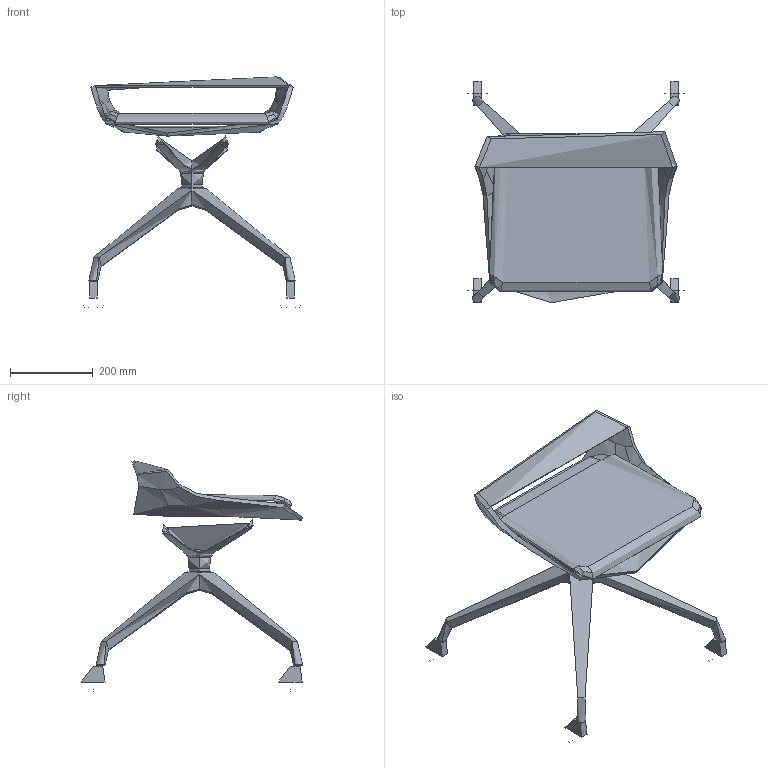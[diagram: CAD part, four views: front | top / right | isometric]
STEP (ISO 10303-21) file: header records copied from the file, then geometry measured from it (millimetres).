
FILE_DESCRIPTION(/* description */ (''),/* implementation_level */ '2;1');
FILE_NAME(/* name */ 'LOTUS LT-02-H,F75-N',/* time_stamp */ '2025-02-07T14:45:50+01:00',/* author */ (''),/* organization */ (''),/* preprocessor_version */ 'ST-DEVELOPER v16.5',/* originating_system */ 'Rhino 7.37',/* authorisation */ '');
FILE_SCHEMA (('CONFIG_CONTROL_DESIGN'));
Length unit declared in the file: millimetre
Products named in the file (1): Document
Bounding box: 528 x 537.34 x 558.03 mm (x, y, z)
Volume: 4607414.9 mm3; surface area: 1158786.4 mm2
Topology: 7 solids, 29 shells, 259 faces, 602 edges, 367 vertices
Faces by surface type: bspline 151, plane 74, cylinder 34
Full cylindrical faces by diameter (mm): 10 x4, 60 x8
Entity records: 27648 total; most frequent: CARTESIAN_POINT 23857, ORIENTED_EDGE 1138, EDGE_CURVE 593, VERTEX_POINT 363, B_SPLINE_CURVE_WITH_KNOTS 351, ADVANCED_FACE 259, FACE_OUTER_BOUND 259, EDGE_LOOP 259
